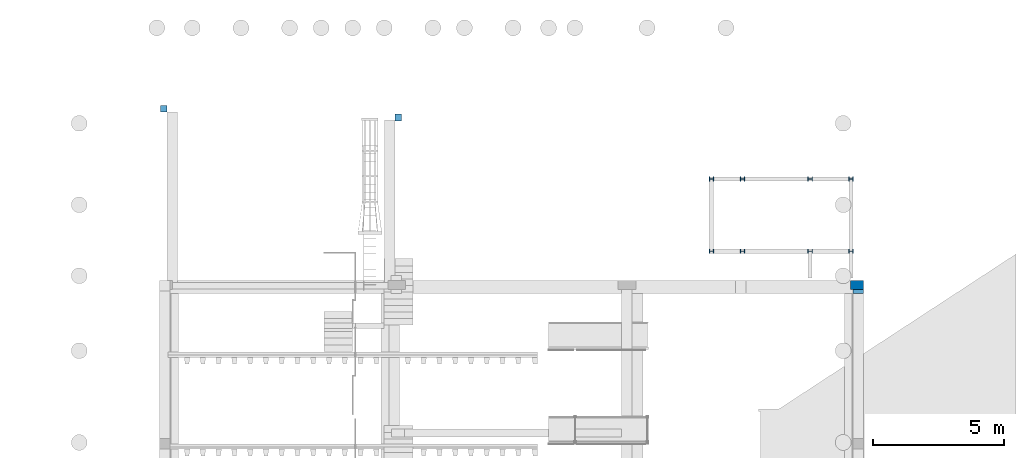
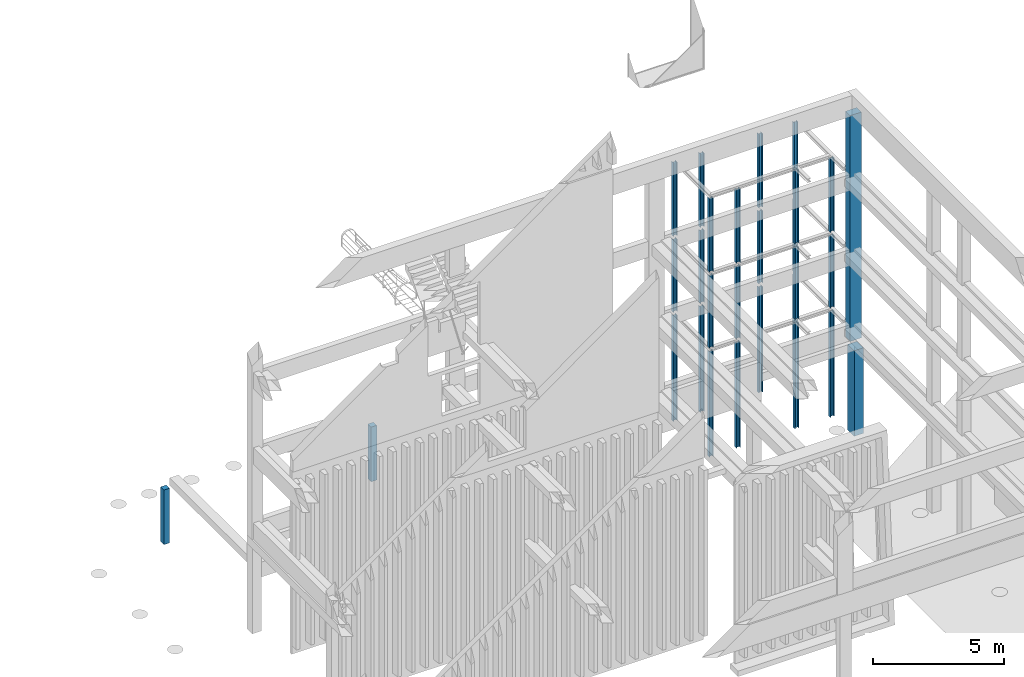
# One storey, part 2 of 15: 28 columns.
"""IFC2X3 building model written with IfcOpenShell, lengths in metres."""

from ifc_helpers import new_model, entity, si_unit, converted_unit, derived_unit, money_unit, direction, frame, frame_2d, origin_with_axes, place, context, subcontext, project, spatial, polyline, rectangle, outline, extrude, material, type_object, element, save


model = new_model("IFC2X3")

# Units and contexts
model_context = context("Model", 3, precision=1e-05, world=origin_with_axes(), true_north=direction((0.0, 1.0)))
body_context = subcontext(model_context, "Body", "Model", "MODEL_VIEW", scale=1.0)
ifc_project = project(units=[si_unit("LENGTHUNIT", "METRE"), si_unit("AREAUNIT", "SQUARE_METRE"), si_unit("VOLUMEUNIT", "CUBIC_METRE"), si_unit("ABSORBEDDOSEUNIT", "GRAY"), si_unit("AMOUNTOFSUBSTANCEUNIT", "MOLE"), si_unit("DOSEEQUIVALENTUNIT", "SIEVERT"), si_unit("ELECTRICCAPACITANCEUNIT", "FARAD"), si_unit("ELECTRICCHARGEUNIT", "COULOMB"), si_unit("ELECTRICCONDUCTANCEUNIT", "SIEMENS"), si_unit("ELECTRICCURRENTUNIT", "AMPERE"), si_unit("ELECTRICRESISTANCEUNIT", "OHM"), si_unit("ELECTRICVOLTAGEUNIT", "VOLT"), si_unit("ENERGYUNIT", "JOULE"), si_unit("FORCEUNIT", "NEWTON"), si_unit("FREQUENCYUNIT", "HERTZ"), si_unit("ILLUMINANCEUNIT", "LUX"), si_unit("INDUCTANCEUNIT", "HENRY"), si_unit("LUMINOUSFLUXUNIT", "LUMEN"), si_unit("LUMINOUSINTENSITYUNIT", "CANDELA"), si_unit("MAGNETICFLUXDENSITYUNIT", "TESLA"), si_unit("MAGNETICFLUXUNIT", "WEBER"), si_unit("MASSUNIT", "GRAM"), converted_unit("PLANEANGLEUNIT", "degree", entity("IfcReal", 0.0174532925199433), si_unit("PLANEANGLEUNIT", "RADIAN"), dimensions=[0, 0, 0, 0, 0, 0, 0]), si_unit("POWERUNIT", "WATT"), si_unit("PRESSUREUNIT", "PASCAL"), si_unit("RADIOACTIVITYUNIT", "BECQUEREL"), si_unit("SOLIDANGLEUNIT", "STERADIAN"), si_unit("THERMODYNAMICTEMPERATUREUNIT", "KELVIN"), si_unit("TIMEUNIT", "SECOND"), derived_unit("ACCELERATIONUNIT", [(si_unit("LENGTHUNIT", "METRE"), 1), (si_unit("TIMEUNIT", "SECOND"), -2)]), derived_unit("ANGULARVELOCITYUNIT", [(converted_unit("PLANEANGLEUNIT", "degree", entity("IfcReal", 0.0174532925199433), si_unit("PLANEANGLEUNIT", "RADIAN"), dimensions=[0, 0, 0, 0, 0, 0, 0]), 1), (si_unit("TIMEUNIT", "SECOND"), -1)]), derived_unit("CURVATUREUNIT", [(converted_unit("PLANEANGLEUNIT", "degree", entity("IfcReal", 0.0174532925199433), si_unit("PLANEANGLEUNIT", "RADIAN"), dimensions=[0, 0, 0, 0, 0, 0, 0]), 1), (si_unit("LENGTHUNIT", "METRE"), -1)]), derived_unit("DYNAMICVISCOSITYUNIT", [(si_unit("PRESSUREUNIT", "PASCAL"), 1), (si_unit("TIMEUNIT", "SECOND"), 1)]), derived_unit("HEATFLUXDENSITYUNIT", [(si_unit("POWERUNIT", "WATT"), 1), (si_unit("LENGTHUNIT", "METRE"), -2)]), derived_unit("HEATINGVALUEUNIT", [(si_unit("ENERGYUNIT", "JOULE"), 1), (si_unit("MASSUNIT", "GRAM"), -1)]), derived_unit("INTEGERCOUNTRATEUNIT", [(si_unit("TIMEUNIT", "SECOND"), -1)]), derived_unit("IONCONCENTRATIONUNIT", [(si_unit("MASSUNIT", "GRAM"), 1), (si_unit("VOLUMEUNIT", "CUBIC_METRE"), -1)]), derived_unit("ISOTHERMALMOISTURECAPACITYUNIT", [(si_unit("VOLUMEUNIT", "CUBIC_METRE"), 1), (si_unit("MASSUNIT", "GRAM"), -1)]), derived_unit("KINEMATICVISCOSITYUNIT", [(si_unit("AREAUNIT", "SQUARE_METRE"), 1), (si_unit("TIMEUNIT", "SECOND"), -1)]), derived_unit("LINEARFORCEUNIT", [(si_unit("FORCEUNIT", "NEWTON"), 1), (si_unit("LENGTHUNIT", "METRE"), -1)]), derived_unit("LINEARMOMENTUNIT", [(si_unit("FORCEUNIT", "NEWTON"), 1), (si_unit("LENGTHUNIT", "METRE"), -1)]), derived_unit("LINEARSTIFFNESSUNIT", [(si_unit("FORCEUNIT", "NEWTON"), 1), (si_unit("LENGTHUNIT", "METRE"), -1)]), derived_unit("LINEARVELOCITYUNIT", [(si_unit("LENGTHUNIT", "METRE"), 1), (si_unit("TIMEUNIT", "SECOND"), -1)]), derived_unit("LUMINOUSINTENSITYDISTRIBUTIONUNIT", [(si_unit("LUMINOUSINTENSITYUNIT", "CANDELA"), 1), (si_unit("LUMINOUSFLUXUNIT", "LUMEN"), -1)]), derived_unit("MASSDENSITYUNIT", [(si_unit("MASSUNIT", "GRAM"), 1), (si_unit("VOLUMEUNIT", "CUBIC_METRE"), -1)]), derived_unit("MASSFLOWRATEUNIT", [(si_unit("MASSUNIT", "GRAM"), 1), (si_unit("TIMEUNIT", "SECOND"), -1)]), derived_unit("MASSPERLENGTHUNIT", [(si_unit("MASSUNIT", "GRAM"), 1), (si_unit("LENGTHUNIT", "METRE"), -1)]), derived_unit("MODULUSOFELASTICITYUNIT", [(si_unit("FORCEUNIT", "NEWTON"), 1), (si_unit("AREAUNIT", "SQUARE_METRE"), -1)]), derived_unit("MODULUSOFLINEARSUBGRADEREACTIONUNIT", [(si_unit("FORCEUNIT", "NEWTON"), 1), (si_unit("LENGTHUNIT", "METRE"), -2)]), derived_unit("MODULUSOFROTATIONALSUBGRADEREACTIONUNIT", [(si_unit("FORCEUNIT", "NEWTON"), 1), (si_unit("LENGTHUNIT", "METRE"), 1)]), derived_unit("MODULUSOFSUBGRADEREACTIONUNIT", [(si_unit("FORCEUNIT", "NEWTON"), 1), (si_unit("VOLUMEUNIT", "CUBIC_METRE"), -1)]), derived_unit("MOISTUREDIFFUSIVITYUNIT", [(si_unit("VOLUMEUNIT", "CUBIC_METRE"), 1), (si_unit("TIMEUNIT", "SECOND"), -1)]), derived_unit("MOLECULARWEIGHTUNIT", [(si_unit("MASSUNIT", "GRAM"), 1), (si_unit("AMOUNTOFSUBSTANCEUNIT", "MOLE"), -1)]), derived_unit("PLANARFORCEUNIT", [(si_unit("FORCEUNIT", "NEWTON"), 1), (si_unit("LENGTHUNIT", "METRE"), -2)]), derived_unit("ROTATIONALFREQUENCYUNIT", [(si_unit("TIMEUNIT", "SECOND"), -1)]), derived_unit("ROTATIONALMASSUNIT", [(si_unit("MASSUNIT", "GRAM"), 1), (si_unit("LENGTHUNIT", "METRE"), 2)]), derived_unit("ROTATIONALSTIFFNESSUNIT", [(si_unit("FORCEUNIT", "NEWTON"), 1), (si_unit("LENGTHUNIT", "METRE"), 1), (converted_unit("PLANEANGLEUNIT", "degree", entity("IfcReal", 0.0174532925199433), si_unit("PLANEANGLEUNIT", "RADIAN"), dimensions=[0, 0, 0, 0, 0, 0, 0]), -1)]), derived_unit("SECTIONAREAINTEGRALUNIT", [(si_unit("LENGTHUNIT", "METRE"), 5)]), derived_unit("SECTIONMODULUSUNIT", [(si_unit("LENGTHUNIT", "METRE"), 3)]), derived_unit("SHEARMODULUSUNIT", [(si_unit("FORCEUNIT", "NEWTON"), 1), (si_unit("AREAUNIT", "SQUARE_METRE"), -1)]), derived_unit("SOUNDPOWERUNIT", [(si_unit("ENERGYUNIT", "JOULE"), 1), (si_unit("TIMEUNIT", "SECOND"), -1)]), derived_unit("SPECIFICHEATCAPACITYUNIT", [(si_unit("FORCEUNIT", "NEWTON"), 1), (si_unit("MASSUNIT", "GRAM"), -1), (si_unit("THERMODYNAMICTEMPERATUREUNIT", "KELVIN"), -1)]), derived_unit("TEMPERATUREGRADIENTUNIT", [(si_unit("THERMODYNAMICTEMPERATUREUNIT", "KELVIN"), 1), (si_unit("LENGTHUNIT", "METRE"), -1)]), derived_unit("THERMALADMITTANCEUNIT", [(si_unit("POWERUNIT", "WATT"), 1), (si_unit("AREAUNIT", "SQUARE_METRE"), -1), (si_unit("THERMODYNAMICTEMPERATUREUNIT", "KELVIN"), -1)]), derived_unit("THERMALCONDUCTANCEUNIT", [(si_unit("POWERUNIT", "WATT"), 1), (si_unit("LENGTHUNIT", "METRE"), -1), (si_unit("THERMODYNAMICTEMPERATUREUNIT", "KELVIN"), -1)]), derived_unit("THERMALEXPANSIONCOEFFICIENTUNIT", [(si_unit("THERMODYNAMICTEMPERATUREUNIT", "KELVIN"), -1)]), derived_unit("THERMALRESISTANCEUNIT", [(si_unit("AREAUNIT", "SQUARE_METRE"), 1), (si_unit("POWERUNIT", "WATT"), -1)]), derived_unit("THERMALTRANSMITTANCEUNIT", [(si_unit("POWERUNIT", "WATT"), 1), (si_unit("AREAUNIT", "SQUARE_METRE"), -1), (si_unit("THERMODYNAMICTEMPERATUREUNIT", "KELVIN"), -1)]), derived_unit("TORQUEUNIT", [(si_unit("FORCEUNIT", "NEWTON"), 1), (si_unit("LENGTHUNIT", "METRE"), 1)]), derived_unit("VAPORPERMEABILITYUNIT", [(si_unit("MASSUNIT", "GRAM"), 1), (si_unit("TIMEUNIT", "SECOND"), -1)]), derived_unit("VOLUMETRICFLOWRATEUNIT", [(si_unit("VOLUMEUNIT", "CUBIC_METRE"), 1), (si_unit("TIMEUNIT", "SECOND"), -1)]), derived_unit("WARPINGCONSTANTUNIT", [(si_unit("LENGTHUNIT", "METRE"), 6)]), derived_unit("WARPINGMOMENTUNIT", [(si_unit("FORCEUNIT", "NEWTON"), 1), (si_unit("LENGTHUNIT", "METRE"), 2)]), money_unit("GBP")], contexts=[model_context])

# Site, building, storey
site_placement = place(None, origin_with_axes())
site = spatial("IfcSite", under=ifc_project, at=site_placement, Name="Site", CompositionType="ELEMENT")
building_placement = place(site_placement, origin_with_axes())
building = spatial("IfcBuilding", under=site, at=building_placement, Name="Building01", CompositionType="ELEMENT")
storey_placement = place(building_placement, origin_with_axes())
storey = spatial("IfcBuildingStorey", under=building, at=storey_placement, Name="GF", CompositionType="ELEMENT", Elevation=0.0)

# Columns
ifc_material_1 = material(Name="A_BSUK_Columns_Steel")
column_type_1 = type_object("IfcColumnType", Name="A-Columns-Steel", PredefinedType="COLUMN")
for number, where, z_axis, x_axis, name in (
    (1, (26.490035, 15.837181, 0.0), (0.0, 0.0, 1.0), (0.0, 1.0, 0.0), "A-Columns-Steel"),
    (2, (26.490035, 18.584781, 0.0), (0.0, 0.0, 1.0), (0.0, 1.0, 0.0), "A-Columns-Steel"),
    (3, (24.940035, 18.584781, 0.0), (0.0, 0.0, 1.0), (0.0, 1.0, 0.0), "A-Columns-Steel"),
    (4, (24.940035, 15.837181, 0.0), (0.0, 0.0, 1.0), (0.0, 1.0, 0.0), "A-Columns-Steel"),
    (5, (22.370035, 18.584781, 0.0), (0.0, 0.0, 1.0), (0.0, 1.0, 0.0), "A-Columns-Steel"),
    (6, (22.370035, 15.837181, 0.0), (0.0, 0.0, 1.0), (0.0, 1.0, 0.0), "A-Columns-Steel"),
    (7, (21.181634, 18.584781, 0.0), (0.0, 0.0, 1.0), (0.0, 1.0, 0.0), "A-Columns-Steel"),
    (8, (21.181634, 15.837181, 0.0), (0.0, 0.0, 1.0), (0.0, 1.0, 0.0), "A-Columns-Steel"),
):
    element("IfcColumn", number, at=place(storey_placement, frame(where, z_axis=z_axis, x_axis=x_axis)), inside=storey, type_object=column_type_1, material=ifc_material_1, Name=name, ObjectType="A-Columns-Steel", context=body_context, shape_type="SweptSolid", body=[
        extrude(outline(polyline([(0.1574, 0.0), (0.1574, 0.0157), (0.0842, 0.0157), (0.0842, 0.1545), (0.1574, 0.1545), (0.1574, 0.1702), (0.0, 0.1702), (0.0, 0.1545), (0.0732, 0.1545), (0.0732, 0.0157), (0.0, 0.0157), (0.0, 0.0), (0.1574, 0.0)])), origin_with_axes(), (0.0, 0.0, 1.0), 4.894267),
    ])
for number, where, z_axis, x_axis, name in (
    (9, (26.490035, 18.584781, 5.064467), (0.0, 0.0, 1.0), (0.0, 1.0, 0.0), "A-Columns-Steel"),
    (10, (26.490035, 15.837181, 5.064467), (0.0, 0.0, 1.0), (0.0, 1.0, 0.0), "A-Columns-Steel"),
    (11, (24.940035, 18.584781, 5.064467), (0.0, 0.0, 1.0), (0.0, 1.0, 0.0), "A-Columns-Steel"),
    (12, (24.940035, 15.837181, 5.064467), (0.0, 0.0, 1.0), (0.0, 1.0, 0.0), "A-Columns-Steel"),
    (13, (22.370035, 18.584781, 5.064467), (0.0, 0.0, 1.0), (0.0, 1.0, 0.0), "A-Columns-Steel"),
    (14, (22.370035, 15.837181, 5.064467), (0.0, 0.0, 1.0), (0.0, 1.0, 0.0), "A-Columns-Steel"),
    (15, (21.181634, 18.584781, 5.064467), (0.0, 0.0, 1.0), (0.0, 1.0, 0.0), "A-Columns-Steel"),
    (16, (21.181634, 15.837181, 5.064467), (0.0, 0.0, 1.0), (0.0, 1.0, 0.0), "A-Columns-Steel"),
):
    element("IfcColumn", number, at=place(storey_placement, frame(where, z_axis=z_axis, x_axis=x_axis)), inside=storey, type_object=column_type_1, material=ifc_material_1, Name=name, ObjectType="A-Columns-Steel", context=body_context, shape_type="SweptSolid", body=[
        extrude(outline(polyline([(0.1574, 0.0), (0.1574, 0.0157), (0.0842, 0.0157), (0.0842, 0.1545), (0.1574, 0.1545), (0.1574, 0.1702), (0.0, 0.1702), (0.0, 0.1545), (0.0732, 0.1545), (0.0732, 0.0157), (0.0, 0.0157), (0.0, 0.0), (0.1574, 0.0)])), origin_with_axes(), (0.0, 0.0, 1.0), 3.352776),
    ])
for number, where, z_axis, x_axis, name in (
    (17, (21.181634, 18.584781, 8.587442), (0.0, 0.0, 1.0), (0.0, 1.0, 0.0), "A-Columns-Steel"),
    (18, (21.181634, 15.837181, 8.587442), (0.0, 0.0, 1.0), (0.0, 1.0, 0.0), "A-Columns-Steel"),
    (19, (22.370035, 18.584781, 8.587442), (0.0, 0.0, 1.0), (0.0, 1.0, 0.0), "A-Columns-Steel"),
    (20, (22.370035, 15.837181, 8.587442), (0.0, 0.0, 1.0), (0.0, 1.0, 0.0), "A-Columns-Steel"),
    (21, (24.940035, 18.584781, 8.587442), (0.0, 0.0, 1.0), (0.0, 1.0, 0.0), "A-Columns-Steel"),
    (22, (24.940035, 15.837181, 8.587442), (0.0, 0.0, 1.0), (0.0, 1.0, 0.0), "A-Columns-Steel"),
    (23, (26.490035, 18.584781, 8.587442), (0.0, 0.0, 1.0), (0.0, 1.0, 0.0), "A-Columns-Steel"),
    (24, (26.490035, 15.837181, 8.587442), (0.0, 0.0, 1.0), (0.0, 1.0, 0.0), "A-Columns-Steel"),
):
    element("IfcColumn", number, at=place(storey_placement, frame(where, z_axis=z_axis, x_axis=x_axis)), inside=storey, type_object=column_type_1, material=ifc_material_1, Name=name, ObjectType="A-Columns-Steel", context=body_context, shape_type="SweptSolid", body=[
        extrude(outline(polyline([(0.1574, 0.0), (0.1574, 0.0157), (0.0842, 0.0157), (0.0842, 0.1545), (0.1574, 0.1545), (0.1574, 0.1702), (0.0, 0.1702), (0.0, 0.1545), (0.0732, 0.1545), (0.0732, 0.0157), (0.0, 0.0157), (0.0, 0.0), (0.1574, 0.0)])), origin_with_axes(), (0.0, 0.0, 1.0), 3.413371),
    ])
ifc_material_2 = material(Name="A_BSUK_Columns_ReinforcedConcrete")
column_type_2 = type_object("IfcColumnType", Name="A-Columns-Concrete", PredefinedType="COLUMN")
column_1_placement = place(storey_placement, frame((26.88, 14.45, 14.83), z_axis=(0.0, 0.0, -1.0), x_axis=(0.0, 1.0, 0.0)))
element("IfcColumn", 25, at=column_1_placement, inside=storey, type_object=column_type_2, material=ifc_material_2, Name="A-Columns-Concrete", ObjectType="A-Columns-Concrete", context=body_context, shape_type="SweptSolid", body=[
    extrude(rectangle(XDim=0.5, YDim=0.35, at=frame_2d((0.175, -0.25), x_axis=(0.0, -1.0))), origin_with_axes(), (0.0, 0.0, 1.0), 10.48),
])
column_2_placement = place(storey_placement, frame((26.48, 14.3, 0.0), z_axis=(0.0, 0.0, 1.0), x_axis=(1.0, 0.0, 0.0)))
element("IfcColumn", 26, at=column_2_placement, inside=storey, type_object=column_type_2, material=ifc_material_2, Name="A-Columns-Concrete", ObjectType="A-Columns-Concrete", context=body_context, shape_type="SweptSolid", body=[
    extrude(rectangle(XDim=0.5, YDim=0.4, at=frame_2d((0.2, 0.25), x_axis=(0.0, 1.0))), origin_with_axes(), (0.0, 0.0, 1.0), 3.97),
])
for number, where, z_axis, x_axis, name in (
    (27, (0.140679, 21.208056, 0.0), (0.0, 0.0, 1.0), (1.0, 0.0, 0.0), "A-Columns-Concrete"),
    (28, (9.053038, 20.877455, 0.0), (0.0, 0.0, 1.0), (1.0, 0.0, 0.0), "A-Columns-Concrete"),
):
    element("IfcColumn", number, at=place(storey_placement, frame(where, z_axis=z_axis, x_axis=x_axis)), inside=storey, type_object=column_type_2, material=ifc_material_2, Name=name, ObjectType="A-Columns-Concrete", context=body_context, shape_type="SweptSolid", body=[
        extrude(rectangle(XDim=0.25, YDim=0.25, at=frame_2d((0.125, 0.125), x_axis=(0.0, 1.0))), origin_with_axes(), (0.0, 0.0, 1.0), 2.535),
    ])

save(model, "model.ifc")
